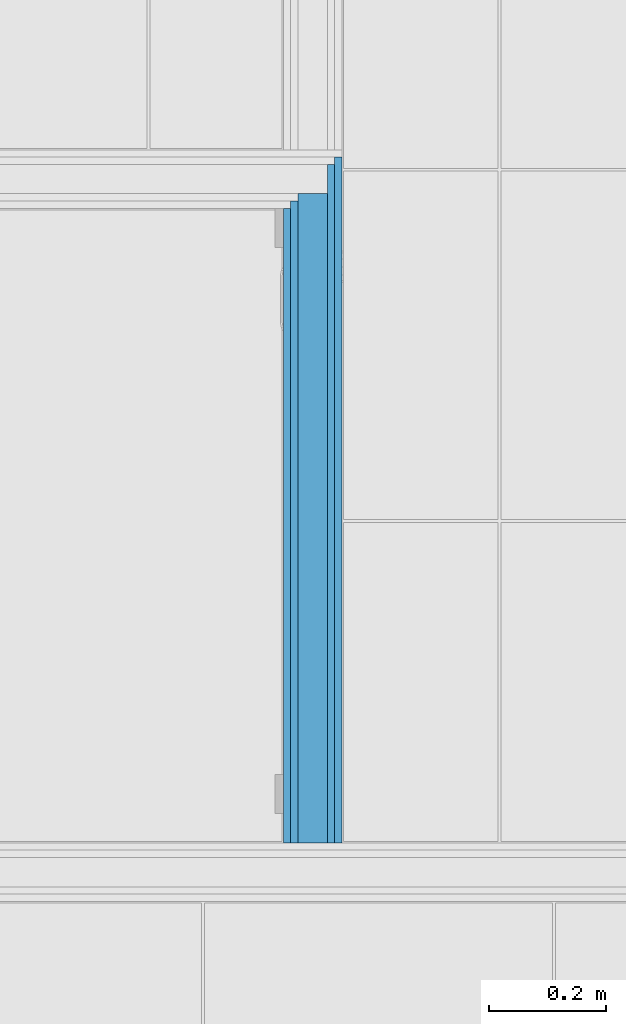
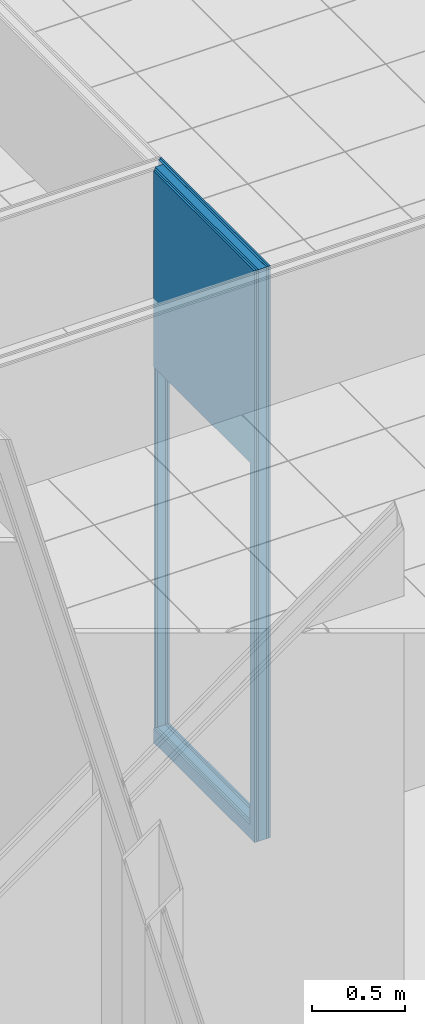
# One storey, part 29 of 338: 5 building element parts, 1 opening, 1 element without a shape of its own.
"""IFC2X3 building model written with IfcOpenShell, lengths in millimetres."""

from ifc_helpers import new_model, entity, si_unit, converted_unit, derived_unit, money_unit, direction, frame, origin_with_axes, place, context, subcontext, project, spatial, faceted_brep, material, type_object, element, aggregate, save


model = new_model("IFC2X3")

# Units and contexts
model_context = context("Model", 3, precision=0.01, world=origin_with_axes(), true_north=direction((0.0, 1.0)))
plan_context = context("Plan", 3, precision=0.01, world=origin_with_axes(), true_north=direction((0.0, 1.0)))
body_context = subcontext(model_context, "Body", "Model", "MODEL_VIEW")
ifc_project = project(units=[si_unit("LENGTHUNIT", "METRE", prefix="MILLI"), si_unit("AREAUNIT", "SQUARE_METRE"), si_unit("VOLUMEUNIT", "CUBIC_METRE"), converted_unit("PLANEANGLEUNIT", "DEGREE", entity("IfcPlaneAngleMeasure", 0.0174532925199), si_unit("PLANEANGLEUNIT", "RADIAN"), dimensions=[0, 0, 0, 0, 0, 0, 0]), money_unit("EUR"), converted_unit("TIMEUNIT", "Year", entity("IfcTimeMeasure", 31556926.0), si_unit("TIMEUNIT", "SECOND"), dimensions=[0, 0, 1, 0, 0, 0, 0]), si_unit("MASSUNIT", "GRAM", prefix="KILO"), si_unit("THERMODYNAMICTEMPERATUREUNIT", "DEGREE_CELSIUS"), si_unit("LUMINOUSINTENSITYUNIT", "LUMEN"), si_unit("ENERGYUNIT", "JOULE", prefix="MEGA"), derived_unit("THERMALCONDUCTANCEUNIT", [(si_unit("POWERUNIT", "WATT"), 1), (si_unit("LENGTHUNIT", "METRE"), -1), (si_unit("THERMODYNAMICTEMPERATUREUNIT", "KELVIN"), -1)]), derived_unit("SPECIFICHEATCAPACITYUNIT", [(si_unit("ENERGYUNIT", "JOULE"), 1), (si_unit("MASSUNIT", "GRAM", prefix="KILO"), -1), (si_unit("THERMODYNAMICTEMPERATUREUNIT", "KELVIN"), -1)]), derived_unit("MASSDENSITYUNIT", [(si_unit("MASSUNIT", "GRAM", prefix="KILO"), 1), (si_unit("VOLUMEUNIT", "CUBIC_METRE"), -1)])], contexts=[model_context, plan_context])

# Site, building, storey
site_placement = place(None, origin_with_axes())
site = spatial("IfcSite", under=ifc_project, at=site_placement, Name="Fortuinstraat Woensdrecht", CompositionType="ELEMENT")
building_placement = place(site_placement, origin_with_axes())
building = spatial("IfcBuilding", under=site, at=building_placement, Name="IKC Fortuna", CompositionType="ELEMENT")
storey_placement = place(building_placement, origin_with_axes())
storey = spatial("IfcBuildingStorey", under=building, at=storey_placement, Name="00 begane grond", CompositionType="ELEMENT", Elevation=0.0)

# Wall, opening, building element parts
wall_type = type_object("IfcWallType", Name="MS100 2.50.2A 100", PredefinedType="NOTDEFINED")
wall_placement = place(storey_placement, frame((30994.3655266, 29932.4813061, -90.0), z_axis=(0.0, 0.0, 1.0), x_axis=(0.0, 1.0, 0.0)))
wall = element("IfcWall", 1, at=wall_placement, inside=storey, type_object=wall_type, Name="22_Wand_Binnenwand")
opening_placement = place(wall_placement, frame((667.0, 0.0, 90.0), z_axis=(0.0, 0.0, 1.0), x_axis=(1.0, 0.0, 0.0)))
element("IfcOpeningElement", 2, at=opening_placement, cuts=wall, Name="32_Deur_h.01a", context=body_context, shape_type="Brep", body=[
    faceted_brep([(-517.0, 100.0, 2367.0), (-517.0, 100.0, 0.0), (-517.0, -200.0, 0.0), (-517.0, -200.0, 2367.0), (517.0, 100.0, 2367.0), (517.0, 100.0, 0.0), (517.0, -200.0, 0.0), (517.0, -200.0, 2367.0)], [[[0, 1, 2, 3]], [[0, 4, 5, 1]], [[1, 5, 6, 2]], [[3, 2, 6, 7]], [[4, 0, 3, 7]], [[5, 4, 7, 6]]]),
])
ifc_material_1 = material(Name="Gipsplaat")
building_element_part_1_placement = place(wall_placement, origin_with_axes())
building_element_part_1 = element("IfcBuildingElementPart", 3, at=building_element_part_1_placement, material=ifc_material_1, Name="Gipsplaat", context=body_context, shape_type="Brep", body=[
    faceted_brep([(150.0, 87.5, 90.0), (150.0, 87.5, 2457.0), (1184.0, 87.5, 2457.0), (1184.0, 87.5, 3740.0), (100.0, 87.5, 3740.0), (100.0, 87.5, 0.0), (1184.0, 87.5, 0.0), (1184.0, 87.5, 90.0), (150.0, 100.0, 90.0), (150.0, 100.0, 2457.0), (1184.0, 100.0, 2457.0), (1184.0, 100.0, 3740.0), (100.0, 100.0, 3740.0), (100.0, 100.0, 0.0), (1184.0, 100.0, 0.0), (1184.0, 100.0, 90.0)], [[[0, 1, 2, 3, 4, 5, 6, 7]], [[1, 0, 8, 9]], [[10, 2, 1, 9]], [[2, 10, 11, 3]], [[12, 4, 3, 11]], [[12, 13, 5, 4]], [[5, 13, 14, 6]], [[15, 7, 6, 14]], [[0, 7, 15, 8]], [[8, 15, 14, 13, 12, 11, 10, 9]]]),
])
building_element_part_2_placement = place(wall_placement, origin_with_axes())
building_element_part_2 = element("IfcBuildingElementPart", 4, at=building_element_part_2_placement, material=ifc_material_1, Name="Gipsplaat", context=body_context, shape_type="Brep", body=[
    faceted_brep([(100.0, 87.5, 0.0), (100.0, 87.5, 3740.0), (1196.5, 87.5, 3740.0), (1196.5, 87.5, 0.0), (150.0, 87.5, 90.0), (1184.0, 87.5, 90.0), (1184.0, 87.5, 2457.0), (150.0, 87.5, 2457.0), (100.0, 75.0, 0.0), (100.0, 75.0, 3740.0), (1196.5, 75.0, 3740.0), (1196.5, 75.0, 0.0), (150.0, 75.0, 90.0), (1184.0, 75.0, 90.0), (1184.0, 75.0, 2457.0), (150.0, 75.0, 2457.0)], [[[0, 1, 2, 3], [4, 5, 6, 7]], [[1, 0, 8, 9]], [[1, 9, 10, 2]], [[11, 3, 2, 10]], [[8, 0, 3, 11]], [[12, 13, 5, 4]], [[13, 14, 6, 5]], [[14, 15, 7, 6]], [[15, 12, 4, 7]], [[9, 8, 11, 10], [12, 15, 14, 13]]]),
])
ifc_material_2 = material(Name="Isolatie - Steenwol LSW")
building_element_part_3_placement = place(wall_placement, origin_with_axes())
building_element_part_3 = element("IfcBuildingElementPart", 5, at=building_element_part_3_placement, material=ifc_material_2, Name="Isolatie - Steenwol LSW", context=body_context, shape_type="Brep", body=[
    faceted_brep([(100.0, 75.0, 0.0), (100.0, 75.0, 3740.0), (1209.0, 75.0, 3740.0), (1209.0, 75.0, 0.0), (150.0, 75.0, 90.0), (1184.0, 75.0, 90.0), (1184.0, 75.0, 2457.0), (150.0, 75.0, 2457.0), (100.0, 25.0, 0.0), (100.0, 25.0, 3740.0), (1209.0, 25.0, 3740.0), (1209.0, 25.0, 0.0), (150.0, 25.0, 90.0), (1184.0, 25.0, 90.0), (1184.0, 25.0, 2457.0), (150.0, 25.0, 2457.0)], [[[0, 1, 2, 3], [4, 5, 6, 7]], [[1, 0, 8, 9]], [[1, 9, 10, 2]], [[11, 3, 2, 10]], [[8, 0, 3, 11]], [[12, 13, 5, 4]], [[13, 14, 6, 5]], [[14, 15, 7, 6]], [[15, 12, 4, 7]], [[9, 8, 11, 10], [12, 15, 14, 13]]]),
])
building_element_part_4_placement = place(wall_placement, origin_with_axes())
building_element_part_4 = element("IfcBuildingElementPart", 6, at=building_element_part_4_placement, material=ifc_material_1, Name="Gipsplaat", context=body_context, shape_type="Brep", body=[
    faceted_brep([(100.0, 25.0, 0.0), (100.0, 25.0, 3740.0), (1259.0, 25.0, 3740.0), (1259.0, 25.0, 0.0), (150.0, 25.0, 90.0), (1184.0, 25.0, 90.0), (1184.0, 25.0, 2457.0), (150.0, 25.0, 2457.0), (100.0, 12.5, 0.0), (100.0, 12.5, 3740.0), (1259.0, 12.5, 3740.0), (1259.0, 12.5, 0.0), (150.0, 12.5, 90.0), (1184.0, 12.5, 90.0), (1184.0, 12.5, 2457.0), (150.0, 12.5, 2457.0)], [[[0, 1, 2, 3], [4, 5, 6, 7]], [[1, 0, 8, 9]], [[1, 9, 10, 2]], [[11, 3, 2, 10]], [[8, 0, 3, 11]], [[12, 13, 5, 4]], [[13, 14, 6, 5]], [[14, 15, 7, 6]], [[15, 12, 4, 7]], [[9, 8, 11, 10], [12, 15, 14, 13]]]),
])
building_element_part_5_placement = place(wall_placement, origin_with_axes())
building_element_part_5 = element("IfcBuildingElementPart", 7, at=building_element_part_5_placement, material=ifc_material_1, Name="Gipsplaat", context=body_context, shape_type="Brep", body=[
    faceted_brep([(100.0, 12.5, 0.0), (100.0, 12.5, 3740.0), (1271.5, 12.5, 3740.0), (1271.5, 12.5, 0.0), (150.0, 12.5, 90.0), (1184.0, 12.5, 90.0), (1184.0, 12.5, 2457.0), (150.0, 12.5, 2457.0), (100.0, 0.0, 0.0), (100.0, 0.0, 3740.0), (1271.5, 0.0, 3740.0), (1271.5, 0.0, 0.0), (150.0, 0.0, 90.0), (1184.0, 0.0, 90.0), (1184.0, 0.0, 2457.0), (150.0, 0.0, 2457.0)], [[[0, 1, 2, 3], [4, 5, 6, 7]], [[1, 0, 8, 9]], [[1, 9, 10, 2]], [[11, 3, 2, 10]], [[8, 0, 3, 11]], [[12, 13, 5, 4]], [[13, 14, 6, 5]], [[14, 15, 7, 6]], [[15, 12, 4, 7]], [[9, 8, 11, 10], [12, 15, 14, 13]]]),
])
aggregate(wall, [building_element_part_1, building_element_part_2, building_element_part_3, building_element_part_4, building_element_part_5])

save(model, "model.ifc")
